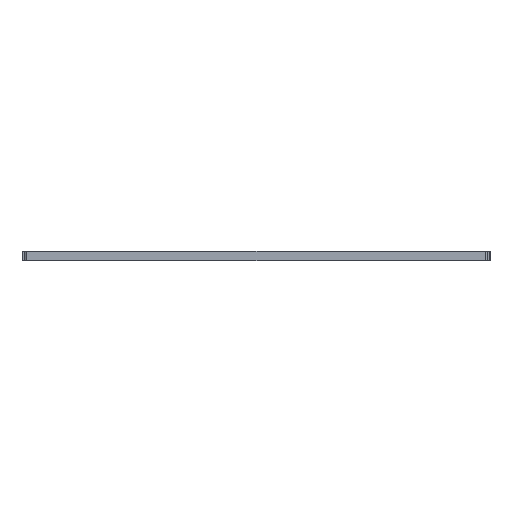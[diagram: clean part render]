
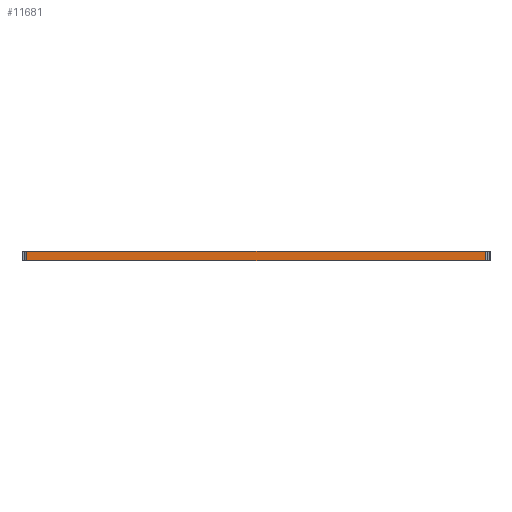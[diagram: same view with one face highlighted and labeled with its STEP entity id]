
A CAD part, left-side view. The second image highlights one B-rep face of the part: STEP entity #11681.
In plain terms, the highlighted planar face has unit normal (-1, 0, 0).
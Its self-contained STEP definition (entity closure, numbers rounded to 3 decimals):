
#44 = PLANE('',#45);
#45 = AXIS2_PLACEMENT_3D('',#46,#47,#48);
#46 = CARTESIAN_POINT('',(0.,0.,0.));
#47 = DIRECTION('',(0.,0.,1.));
#48 = DIRECTION('',(1.,0.,0.));
#100 = PLANE('',#101);
#101 = AXIS2_PLACEMENT_3D('',#102,#103,#104);
#102 = CARTESIAN_POINT('',(0.,0.,8.));
#103 = DIRECTION('',(0.,0.,1.));
#104 = DIRECTION('',(1.,0.,0.));
#307 = VERTEX_POINT('',#308);
#308 = CARTESIAN_POINT('',(-320.,196.,0.));
#327 = CYLINDRICAL_SURFACE('',#328,2.);
#328 = AXIS2_PLACEMENT_3D('',#329,#330,#331);
#329 = CARTESIAN_POINT('',(-318.,196.,8.));
#330 = DIRECTION('',(0.,0.,-1.));
#331 = DIRECTION('',(-1.,0.,0.));
#339 = EDGE_CURVE('',#340,#307,#342,.T.);
#340 = VERTEX_POINT('',#341);
#341 = CARTESIAN_POINT('',(-320.,-196.,0.));
#342 = SURFACE_CURVE('',#343,(#347,#354),.PCURVE_S1.);
#343 = LINE('',#344,#345);
#344 = CARTESIAN_POINT('',(-320.,-200.,0.));
#345 = VECTOR('',#346,1.);
#346 = DIRECTION('',(0.,1.,0.));
#347 = PCURVE('',#44,#348);
#348 = DEFINITIONAL_REPRESENTATION('',(#349),#353);
#349 = LINE('',#350,#351);
#350 = CARTESIAN_POINT('',(-320.,-200.));
#351 = VECTOR('',#352,1.);
#352 = DIRECTION('',(0.,1.));
#353 = ( GEOMETRIC_REPRESENTATION_CONTEXT(2) 
PARAMETRIC_REPRESENTATION_CONTEXT() REPRESENTATION_CONTEXT('2D SPACE',''
  ) );
#354 = PCURVE('',#355,#360);
#355 = PLANE('',#356);
#356 = AXIS2_PLACEMENT_3D('',#357,#358,#359);
#357 = CARTESIAN_POINT('',(-320.,-200.,0.));
#358 = DIRECTION('',(-1.,0.,0.));
#359 = DIRECTION('',(0.,1.,0.));
#360 = DEFINITIONAL_REPRESENTATION('',(#361),#365);
#361 = LINE('',#362,#363);
#362 = CARTESIAN_POINT('',(0.,0.));
#363 = VECTOR('',#364,1.);
#364 = DIRECTION('',(1.,0.));
#365 = ( GEOMETRIC_REPRESENTATION_CONTEXT(2) 
PARAMETRIC_REPRESENTATION_CONTEXT() REPRESENTATION_CONTEXT('2D SPACE',''
  ) );
#384 = CYLINDRICAL_SURFACE('',#385,2.);
#385 = AXIS2_PLACEMENT_3D('',#386,#387,#388);
#386 = CARTESIAN_POINT('',(-318.,-196.,8.));
#387 = DIRECTION('',(0.,0.,-1.));
#388 = DIRECTION('',(-1.,0.,0.));
#6495 = VERTEX_POINT('',#6496);
#6496 = CARTESIAN_POINT('',(-320.,196.,8.));
#6522 = EDGE_CURVE('',#6523,#6495,#6525,.T.);
#6523 = VERTEX_POINT('',#6524);
#6524 = CARTESIAN_POINT('',(-320.,-196.,8.));
#6525 = SURFACE_CURVE('',#6526,(#6530,#6537),.PCURVE_S1.);
#6526 = LINE('',#6527,#6528);
#6527 = CARTESIAN_POINT('',(-320.,-200.,8.));
#6528 = VECTOR('',#6529,1.);
#6529 = DIRECTION('',(0.,1.,0.));
#6530 = PCURVE('',#100,#6531);
#6531 = DEFINITIONAL_REPRESENTATION('',(#6532),#6536);
#6532 = LINE('',#6533,#6534);
#6533 = CARTESIAN_POINT('',(-320.,-200.));
#6534 = VECTOR('',#6535,1.);
#6535 = DIRECTION('',(0.,1.));
#6536 = ( GEOMETRIC_REPRESENTATION_CONTEXT(2) 
PARAMETRIC_REPRESENTATION_CONTEXT() REPRESENTATION_CONTEXT('2D SPACE',''
  ) );
#6537 = PCURVE('',#355,#6538);
#6538 = DEFINITIONAL_REPRESENTATION('',(#6539),#6543);
#6539 = LINE('',#6540,#6541);
#6540 = CARTESIAN_POINT('',(0.,-8.));
#6541 = VECTOR('',#6542,1.);
#6542 = DIRECTION('',(1.,0.));
#6543 = ( GEOMETRIC_REPRESENTATION_CONTEXT(2) 
PARAMETRIC_REPRESENTATION_CONTEXT() REPRESENTATION_CONTEXT('2D SPACE',''
  ) );
#11661 = EDGE_CURVE('',#6523,#340,#11662,.T.);
#11662 = SURFACE_CURVE('',#11663,(#11667,#11674),.PCURVE_S1.);
#11663 = LINE('',#11664,#11665);
#11664 = CARTESIAN_POINT('',(-320.,-196.,8.));
#11665 = VECTOR('',#11666,1.);
#11666 = DIRECTION('',(0.,0.,-1.));
#11667 = PCURVE('',#384,#11668);
#11668 = DEFINITIONAL_REPRESENTATION('',(#11669),#11673);
#11669 = LINE('',#11670,#11671);
#11670 = CARTESIAN_POINT('',(-0.,0.));
#11671 = VECTOR('',#11672,1.);
#11672 = DIRECTION('',(-0.,1.));
#11673 = ( GEOMETRIC_REPRESENTATION_CONTEXT(2) 
PARAMETRIC_REPRESENTATION_CONTEXT() REPRESENTATION_CONTEXT('2D SPACE',''
  ) );
#11674 = PCURVE('',#355,#11675);
#11675 = DEFINITIONAL_REPRESENTATION('',(#11676),#11680);
#11676 = LINE('',#11677,#11678);
#11677 = CARTESIAN_POINT('',(4.,-8.));
#11678 = VECTOR('',#11679,1.);
#11679 = DIRECTION('',(0.,1.));
#11680 = ( GEOMETRIC_REPRESENTATION_CONTEXT(2) 
PARAMETRIC_REPRESENTATION_CONTEXT() REPRESENTATION_CONTEXT('2D SPACE',''
  ) );
#11681 = ADVANCED_FACE('',(#11682),#355,.T.);
#11682 = FACE_BOUND('',#11683,.T.);
#11683 = EDGE_LOOP('',(#11684,#11685,#11686,#11687));
#11684 = ORIENTED_EDGE('',*,*,#339,.F.);
#11685 = ORIENTED_EDGE('',*,*,#11661,.F.);
#11686 = ORIENTED_EDGE('',*,*,#6522,.T.);
#11687 = ORIENTED_EDGE('',*,*,#11688,.T.);
#11688 = EDGE_CURVE('',#6495,#307,#11689,.T.);
#11689 = SURFACE_CURVE('',#11690,(#11694,#11701),.PCURVE_S1.);
#11690 = LINE('',#11691,#11692);
#11691 = CARTESIAN_POINT('',(-320.,196.,8.));
#11692 = VECTOR('',#11693,1.);
#11693 = DIRECTION('',(0.,0.,-1.));
#11694 = PCURVE('',#355,#11695);
#11695 = DEFINITIONAL_REPRESENTATION('',(#11696),#11700);
#11696 = LINE('',#11697,#11698);
#11697 = CARTESIAN_POINT('',(396.,-8.));
#11698 = VECTOR('',#11699,1.);
#11699 = DIRECTION('',(0.,1.));
#11700 = ( GEOMETRIC_REPRESENTATION_CONTEXT(2) 
PARAMETRIC_REPRESENTATION_CONTEXT() REPRESENTATION_CONTEXT('2D SPACE',''
  ) );
#11701 = PCURVE('',#327,#11702);
#11702 = DEFINITIONAL_REPRESENTATION('',(#11703),#11707);
#11703 = LINE('',#11704,#11705);
#11704 = CARTESIAN_POINT('',(0.,0.));
#11705 = VECTOR('',#11706,1.);
#11706 = DIRECTION('',(0.,1.));
#11707 = ( GEOMETRIC_REPRESENTATION_CONTEXT(2) 
PARAMETRIC_REPRESENTATION_CONTEXT() REPRESENTATION_CONTEXT('2D SPACE',''
  ) );
